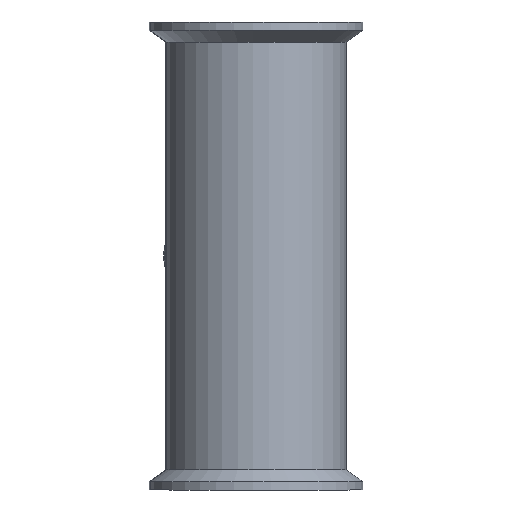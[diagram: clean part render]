
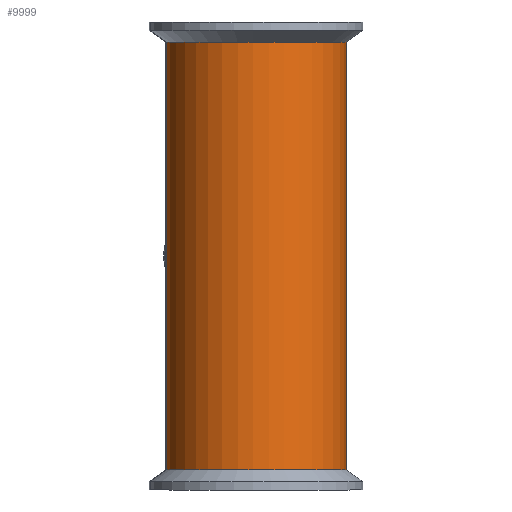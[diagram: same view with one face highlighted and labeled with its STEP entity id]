
A CAD part, front view. The second image highlights one B-rep face of the part: STEP entity #9999.
In plain terms, the highlighted cylindrical face has radius 27 mm (diameter 54 mm), a partial arc.
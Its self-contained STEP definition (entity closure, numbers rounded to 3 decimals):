
#135 = LINE ( 'NONE', #9429, #9967 ) ;
#203 = EDGE_LOOP ( 'NONE', ( #8822, #6389, #5361, #757 ) ) ;
#384 = EDGE_CURVE ( 'NONE', #6350, #8301, #135, .T. ) ;
#757 = ORIENTED_EDGE ( 'NONE', *, *, #2867, .F. ) ;
#1101 = CARTESIAN_POINT ( 'NONE',  ( -27., 0., 64. ) ) ;
#1135 = AXIS2_PLACEMENT_3D ( 'NONE', #4703, #3896, #1560 ) ;
#1560 = DIRECTION ( 'NONE',  ( -1., 0., 0. ) ) ;
#1654 = EDGE_CURVE ( 'NONE', #8252, #3410, #2275, .T. ) ;
#2275 = LINE ( 'NONE', #9972, #6911 ) ;
#2780 = AXIS2_PLACEMENT_3D ( 'NONE', #6482, #4182, #6584 ) ;
#2867 = EDGE_CURVE ( 'NONE', #8301, #3410, #9906, .T. ) ;
#3123 = CARTESIAN_POINT ( 'NONE',  ( 0., 0., 64. ) ) ;
#3216 = DIRECTION ( 'NONE',  ( 0., 0., -1. ) ) ;
#3410 = VERTEX_POINT ( 'NONE', #7950 ) ;
#3896 = DIRECTION ( 'NONE',  ( 0., 0., -1. ) ) ;
#4132 = CYLINDRICAL_SURFACE ( 'NONE', #2780, 27. ) ;
#4182 = DIRECTION ( 'NONE',  ( 0., 0., -1. ) ) ;
#4196 = CARTESIAN_POINT ( 'NONE',  ( 27., 0., -64. ) ) ;
#4703 = CARTESIAN_POINT ( 'NONE',  ( 0., 0., -64. ) ) ;
#4910 = AXIS2_PLACEMENT_3D ( 'NONE', #3123, #6230, #8580 ) ;
#4933 = CARTESIAN_POINT ( 'NONE',  ( 27., 0., 64. ) ) ;
#5185 = EDGE_CURVE ( 'NONE', #6350, #8252, #9296, .T. ) ;
#5361 = ORIENTED_EDGE ( 'NONE', *, *, #1654, .T. ) ;
#6230 = DIRECTION ( 'NONE',  ( 0., 0., -1. ) ) ;
#6350 = VERTEX_POINT ( 'NONE', #4933 ) ;
#6389 = ORIENTED_EDGE ( 'NONE', *, *, #5185, .T. ) ;
#6482 = CARTESIAN_POINT ( 'NONE',  ( 0., 0., 70. ) ) ;
#6584 = DIRECTION ( 'NONE',  ( -1., 0., 0. ) ) ;
#6911 = VECTOR ( 'NONE', #7534, 1000. ) ;
#7534 = DIRECTION ( 'NONE',  ( 0., 0., -1. ) ) ;
#7950 = CARTESIAN_POINT ( 'NONE',  ( -27., 0., -64. ) ) ;
#8252 = VERTEX_POINT ( 'NONE', #1101 ) ;
#8301 = VERTEX_POINT ( 'NONE', #4196 ) ;
#8580 = DIRECTION ( 'NONE',  ( -1., 0., 0. ) ) ;
#8822 = ORIENTED_EDGE ( 'NONE', *, *, #384, .F. ) ;
#8868 = FACE_OUTER_BOUND ( 'NONE', #203, .T. ) ;
#9296 = CIRCLE ( 'NONE', #4910, 27. ) ;
#9429 = CARTESIAN_POINT ( 'NONE',  ( 27., 0., 70. ) ) ;
#9906 = CIRCLE ( 'NONE', #1135, 27. ) ;
#9967 = VECTOR ( 'NONE', #3216, 1000. ) ;
#9972 = CARTESIAN_POINT ( 'NONE',  ( -27., 0., 70. ) ) ;
#9999 = ADVANCED_FACE ( 'NONE', ( #8868 ), #4132, .T. ) ;
